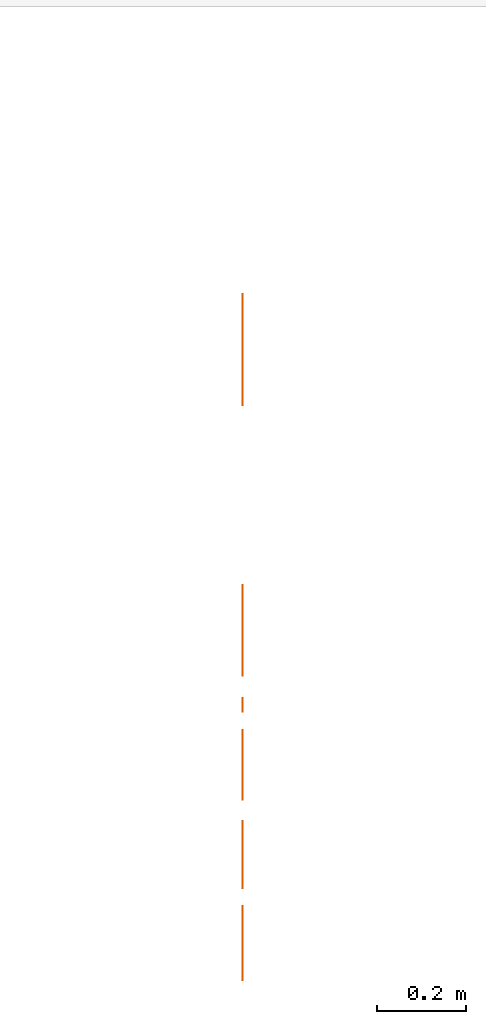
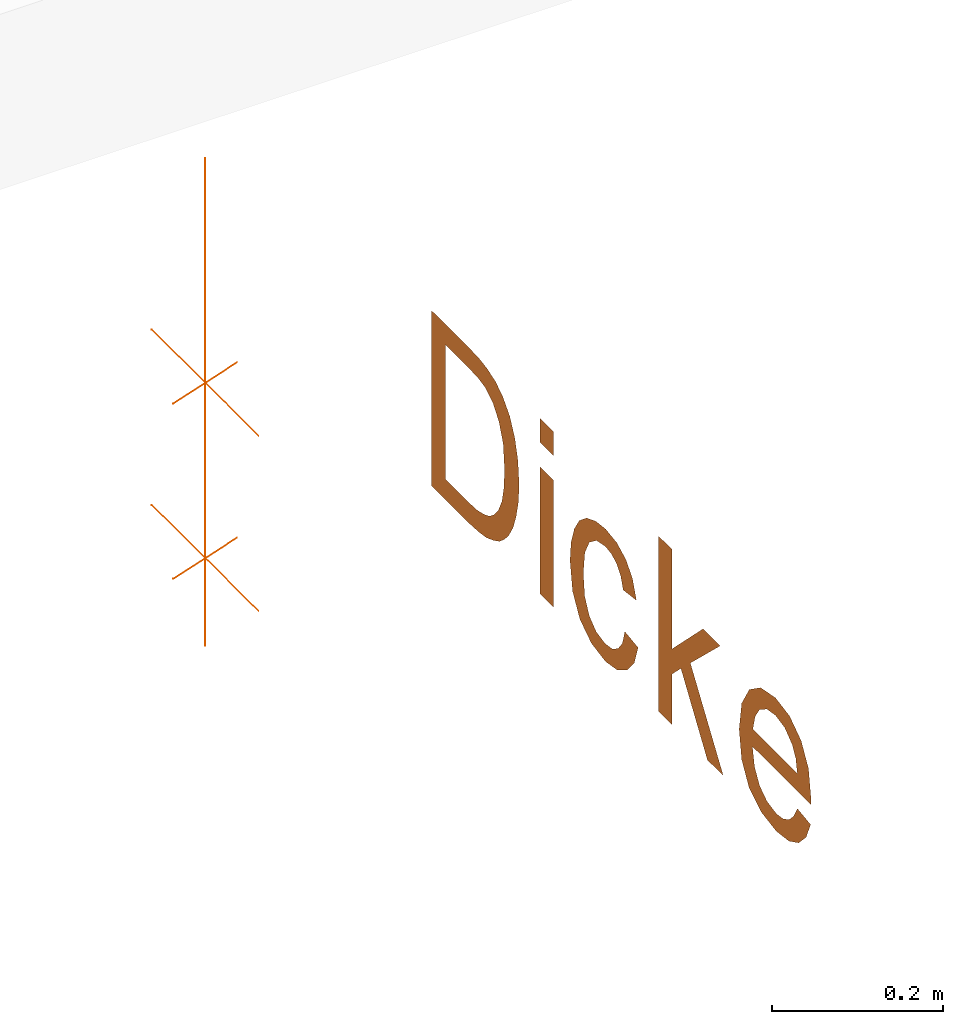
# One storey, part 3 of 3: 4 proxies, 4 elements without a shape of their own.
"""IFC4 building model written with IfcOpenShell, lengths in metres."""

from ifc_helpers import new_model, entity, si_unit, converted_unit, derived_unit, frame, origin, origin_with_axes, place, context, subcontext, project, spatial, open_shell, surface_model, source, transform, mapped, element, aggregate, save


model = new_model("IFC4")

# Units and contexts
model_context = context("Model", 3, precision=1e-05, world=origin())
body_context = subcontext(model_context, "Body", "Model", "MODEL_VIEW")
ifc_project = project(units=[si_unit("LENGTHUNIT", "METRE"), si_unit("AREAUNIT", "SQUARE_METRE"), si_unit("VOLUMEUNIT", "CUBIC_METRE"), si_unit("MASSUNIT", "GRAM", prefix="KILO"), converted_unit("PLANEANGLEUNIT", "DEGREE", entity("IfcPlaneAngleMeasure", 0.0174532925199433), si_unit("PLANEANGLEUNIT", "RADIAN"), dimensions=[0, 0, 0, 0, 0, 0, 0]), derived_unit("THERMALTRANSMITTANCEUNIT", [(si_unit("POWERUNIT", "WATT"), 1), (si_unit("THERMODYNAMICTEMPERATUREUNIT", "KELVIN"), -1), (si_unit("LENGTHUNIT", "METRE"), -2)]), derived_unit("VOLUMETRICFLOWRATEUNIT", [(si_unit("LENGTHUNIT", "METRE"), 3), (converted_unit("TIMEUNIT", "hour", entity("IfcTimeMeasure", 3600.0), si_unit("TIMEUNIT", "SECOND"), dimensions=[0, 0, 1, 0, 0, 0, 0]), -1), (si_unit("LENGTHUNIT", "METRE"), -1)])], contexts=[model_context])

# Site, building, storey
site_placement = place(None, origin())
site = spatial("IfcSite", under=ifc_project, at=site_placement, Name="Liegenschaft", CompositionType="ELEMENT")
building_placement = place(site_placement, origin())
building = spatial("IfcBuilding", under=site, at=building_placement, Name="Gebäude", CompositionType="ELEMENT")
storey_placement = place(building_placement, origin())
storey = spatial("IfcBuildingStorey", under=building, at=storey_placement, Name="Geschoss 01", CompositionType="ELEMENT", Elevation=0.0)

# Assembly, proxy
assembly_1_placement = place(storey_placement, origin())
assembly_1 = element("IfcElementAssembly", 1, at=assembly_1_placement, inside=storey, Name="SpatialDim_Group", PredefinedType="NOTDEFINED")
shared_shape_1 = source(origin_with_axes(), body_context, "Axis", "Curve3D", [
    entity("IfcPolyline", [entity("IfcCartesianPoint", [0.247, 0.05, 0.0]), entity("IfcCartesianPoint", [0.397, 0.2, 0.0])]),
    entity("IfcPolyline", [entity("IfcCartesianPoint", [0.322, 0.0, 0.0]), entity("IfcCartesianPoint", [0.322, 0.25, 0.0])]),
    entity("IfcPolyline", [entity("IfcCartesianPoint", [0.497, 0.05, 0.0]), entity("IfcCartesianPoint", [0.647, 0.2, 0.0])]),
    entity("IfcPolyline", [entity("IfcCartesianPoint", [0.572, 0.0, 0.0]), entity("IfcCartesianPoint", [0.572, 0.25, 0.0])]),
    entity("IfcPolyline", [entity("IfcCartesianPoint", [0.0, 0.125, 0.0]), entity("IfcCartesianPoint", [0.697, 0.125, 0.0])]),
])
proxy_1_placement = place(assembly_1_placement, frame((141.66953885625, -3.62832187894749, 3.572), z_axis=(1.0, 0.0, 1.22464679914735e-16), x_axis=(1.22464679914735e-16, 0.0, -1.0)))
proxy_1 = element("IfcBuildingElementProxy", 2, at=proxy_1_placement, Name="macro", context=body_context, shape_type="MappedRepresentation", body=[
    mapped(shared_shape_1, transform((0.0, 0.0, 0.0), x_axis=(1.0, 0.0, 0.0), y_axis=(0.0, 1.0, 0.0), z_axis=(0.0, 0.0, 1.0), scale=1.0)),
])
aggregate(assembly_1, [proxy_1])

assembly_2_placement = place(storey_placement, origin())
assembly_2 = element("IfcElementAssembly", 3, at=assembly_2_placement, inside=storey, Name="SpatialDim_Group", PredefinedType="NOTDEFINED")
proxy_2_placement = place(assembly_2_placement, frame((141.66953885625, -3.62832187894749, 3.572), z_axis=(-1.0, 0.0, 1.22464679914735e-16), x_axis=(-1.22464679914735e-16, 0.0, -1.0)))
proxy_2 = element("IfcBuildingElementProxy", 4, at=proxy_2_placement, Name="macro", context=body_context, shape_type="MappedRepresentation", body=[
    mapped(shared_shape_1, transform((0.0, 0.0, 0.0), x_axis=(1.0, 0.0, 0.0), y_axis=(0.0, -1.0, 0.0), z_axis=(0.0, 0.0, 1.0), scale=1.0)),
])
aggregate(assembly_2, [proxy_2])

assembly_3_placement = place(storey_placement, origin())
assembly_3 = element("IfcElementAssembly", 5, at=assembly_3_placement, inside=storey, Name="SpatialDim_Group", PredefinedType="NOTDEFINED")
shared_shape_2 = source(origin_with_axes(), body_context, "Body", "SurfaceModel", [
    surface_model("IfcShellBasedSurfaceModel", [(0.298675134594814, 0.887, 0.0), (0.298675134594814, 0.798, 0.0), (0.299925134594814, 0.776125, 0.0), (0.302675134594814, 0.758, 0.0), (0.308800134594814, 0.7415, 0.0), (0.315675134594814, 0.728, 0.0), (0.325550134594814, 0.71625, 0.0), (0.337675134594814, 0.706, 0.0), (0.354675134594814, 0.696, 0.0), (0.374675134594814, 0.689, 0.0), (0.398550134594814, 0.683625, 0.0), (0.424675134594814, 0.682, 0.0), (0.456925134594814, 0.68475, 0.0), (0.484675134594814, 0.692, 0.0), (0.508800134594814, 0.703875, 0.0), (0.527675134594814, 0.721, 0.0), (0.538050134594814, 0.7375, 0.0), (0.544675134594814, 0.757, 0.0), (0.547800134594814, 0.7765, 0.0), (0.548675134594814, 0.802, 0.0), (0.548675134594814, 0.887, 0.0), (0.328675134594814, 0.77975, 0.0), (0.327675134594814, 0.801, 0.0), (0.327675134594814, 0.854, 0.0), (0.519675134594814, 0.854, 0.0), (0.519675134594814, 0.802, 0.0), (0.518300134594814, 0.7765, 0.0), (0.514675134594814, 0.76, 0.0), (0.503550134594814, 0.742625, 0.0), (0.485675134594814, 0.729, 0.0), (0.460175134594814, 0.719125, 0.0), (0.425675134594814, 0.716, 0.0), (0.398550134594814, 0.7175, 0.0), (0.376675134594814, 0.722, 0.0), (0.358550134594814, 0.730375, 0.0), (0.345675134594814, 0.741, 0.0), (0.337675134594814, 0.750875, 0.0), (0.332675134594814, 0.763, 0.0)], [open_shell([[[0, 1, 2, 3, 4, 5, 6, 7, 8, 9, 10, 11, 12, 13, 14, 15, 16, 17, 18, 19, 20], [21, 22, 23, 24, 25, 26, 27, 28, 29, 30, 31, 32, 33, 34, 35, 36, 37]]], orient=[[False, False]])]),
    surface_model("IfcShellBasedSurfaceModel", [(0.298675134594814, 0.633, 0.0), (0.298675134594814, 0.602, 0.0), (0.479675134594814, 0.602, 0.0), (0.479675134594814, 0.633, 0.0), (0.514675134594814, 0.633, 0.0), (0.514675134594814, 0.602, 0.0), (0.548675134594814, 0.602, 0.0), (0.548675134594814, 0.633, 0.0)], [open_shell([[[0, 1, 2, 3]], [[4, 5, 6, 7]]], orient=[[False], [False]])]),
    surface_model("IfcShellBasedSurfaceModel", [(0.364675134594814, 0.435, 0.0), (0.344300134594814, 0.44075, 0.0), (0.330675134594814, 0.451, 0.0), (0.322175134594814, 0.4645, 0.0), (0.319675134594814, 0.481, 0.0), (0.324050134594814, 0.502125, 0.0), (0.336675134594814, 0.518, 0.0), (0.358300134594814, 0.52875, 0.0), (0.389675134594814, 0.532, 0.0), (0.420925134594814, 0.528375, 0.0), (0.441675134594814, 0.518, 0.0), (0.454675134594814, 0.500875, 0.0), (0.458675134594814, 0.48, 0.0), (0.456425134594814, 0.465875, 0.0), (0.449675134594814, 0.454, 0.0), (0.437550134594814, 0.44425, 0.0), (0.421675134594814, 0.439, 0.0), (0.425675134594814, 0.408, 0.0), (0.450550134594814, 0.417, 0.0), (0.468675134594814, 0.432, 0.0), (0.479925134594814, 0.45375, 0.0), (0.483675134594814, 0.48, 0.0), (0.480800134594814, 0.503125, 0.0), (0.472675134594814, 0.524, 0.0), (0.458425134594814, 0.5415, 0.0), (0.439675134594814, 0.553, 0.0), (0.415675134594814, 0.560625, 0.0), (0.388675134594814, 0.563, 0.0), (0.348425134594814, 0.557125, 0.0), (0.318675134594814, 0.54, 0.0), (0.300675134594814, 0.513, 0.0), (0.294675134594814, 0.48, 0.0), (0.299175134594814, 0.452375, 0.0), (0.312675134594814, 0.43, 0.0), (0.333675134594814, 0.412875, 0.0), (0.360675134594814, 0.404, 0.0)], [open_shell([[[0, 1, 2, 3, 4, 5, 6, 7, 8, 9, 10, 11, 12, 13, 14, 15, 16, 17, 18, 19, 20, 21, 22, 23, 24, 25, 26, 27, 28, 29, 30, 31, 32, 33, 34, 35]]], orient=[[False]])]),
    surface_model("IfcShellBasedSurfaceModel", [(0.298675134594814, 0.356, 0.0), (0.298675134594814, 0.325, 0.0), (0.370675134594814, 0.325, 0.0), (0.391675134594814, 0.304, 0.0), (0.298675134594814, 0.242, 0.0), (0.298675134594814, 0.205, 0.0), (0.412675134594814, 0.282, 0.0), (0.479675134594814, 0.212, 0.0), (0.479675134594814, 0.252, 0.0), (0.406675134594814, 0.325, 0.0), (0.548675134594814, 0.325, 0.0), (0.548675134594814, 0.356, 0.0)], [open_shell([[[0, 1, 2, 3, 4, 5, 6, 7, 8, 9, 10, 11]]], orient=[[False]])]),
    surface_model("IfcShellBasedSurfaceModel", [(0.356675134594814, 0.032, 0.0), (0.340050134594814, 0.040875, 0.0), (0.328675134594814, 0.052, 0.0), (0.321925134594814, 0.065375, 0.0), (0.319675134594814, 0.081, 0.0), (0.323925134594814, 0.10275, 0.0), (0.335675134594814, 0.12, 0.0), (0.355300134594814, 0.131875, 0.0), (0.381675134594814, 0.137, 0.0), (0.381675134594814, 0.0, 0.0), (0.386425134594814, 0.0, 0.0), (0.389675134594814, 0.0, 0.0), (0.429425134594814, 0.005875, 0.0), (0.458675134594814, 0.023, 0.0), (0.477550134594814, 0.05, 0.0), (0.483675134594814, 0.083, 0.0), (0.477175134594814, 0.117625, 0.0), (0.458675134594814, 0.144, 0.0), (0.428050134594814, 0.162, 0.0), (0.387675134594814, 0.168, 0.0), (0.347925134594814, 0.162125, 0.0), (0.318675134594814, 0.145, 0.0), (0.300675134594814, 0.11675, 0.0), (0.294675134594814, 0.081, 0.0), (0.298425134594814, 0.051625, 0.0), (0.309675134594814, 0.029, 0.0), (0.328175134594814, 0.011625, 0.0), (0.352675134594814, 0.001, 0.0), (0.426300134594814, 0.03575, 0.0), (0.406675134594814, 0.032, 0.0), (0.406675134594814, 0.136, 0.0), (0.428300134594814, 0.130625, 0.0), (0.444675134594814, 0.12, 0.0), (0.455425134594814, 0.103, 0.0), (0.458675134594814, 0.083, 0.0), (0.454175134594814, 0.06125, 0.0), (0.440675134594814, 0.044, 0.0)], [open_shell([[[0, 1, 2, 3, 4, 5, 6, 7, 8, 9, 10, 11, 12, 13, 14, 15, 16, 17, 18, 19, 20, 21, 22, 23, 24, 25, 26, 27], [28, 29, 30, 31, 32, 33, 34, 35, 36]]], orient=[[False, False]])]),
])
proxy_3_placement = place(assembly_3_placement, frame((141.66953885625, -4.91832187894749, 3.125), z_axis=(-1.0, 0.0, 1.22464679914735e-16), x_axis=(1.22464679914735e-16, 0.0, 1.0)))
proxy_3 = element("IfcBuildingElementProxy", 6, at=proxy_3_placement, context=body_context, shape_type="MappedRepresentation", body=[
    mapped(shared_shape_2, transform((0.0, 0.0, 0.0), x_axis=(1.0, 0.0, 0.0), y_axis=(0.0, 1.0, 0.0), z_axis=(0.0, 0.0, 1.0), scale=1.0)),
])
aggregate(assembly_3, [proxy_3])

assembly_4_placement = place(storey_placement, origin())
assembly_4 = element("IfcElementAssembly", 7, at=assembly_4_placement, inside=storey, Name="SpatialDim_Group", PredefinedType="NOTDEFINED")
proxy_4_placement = place(assembly_4_placement, frame((141.66953885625, -4.91832187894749, 3.125), z_axis=(1.0, 0.0, 1.22464679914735e-16), x_axis=(-1.22464679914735e-16, 0.0, 1.0)))
proxy_4 = element("IfcBuildingElementProxy", 8, at=proxy_4_placement, context=body_context, shape_type="MappedRepresentation", body=[
    mapped(shared_shape_2, transform((0.0, 0.0, 0.0), x_axis=(1.0, 0.0, 0.0), y_axis=(0.0, -1.0, 0.0), z_axis=(0.0, 0.0, 1.0), scale=1.0)),
])
aggregate(assembly_4, [proxy_4])

save(model, "model.ifc")
